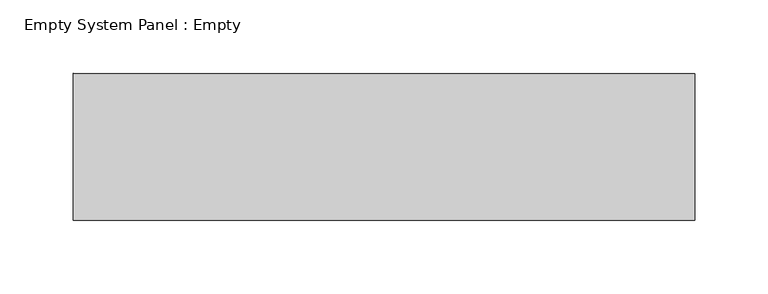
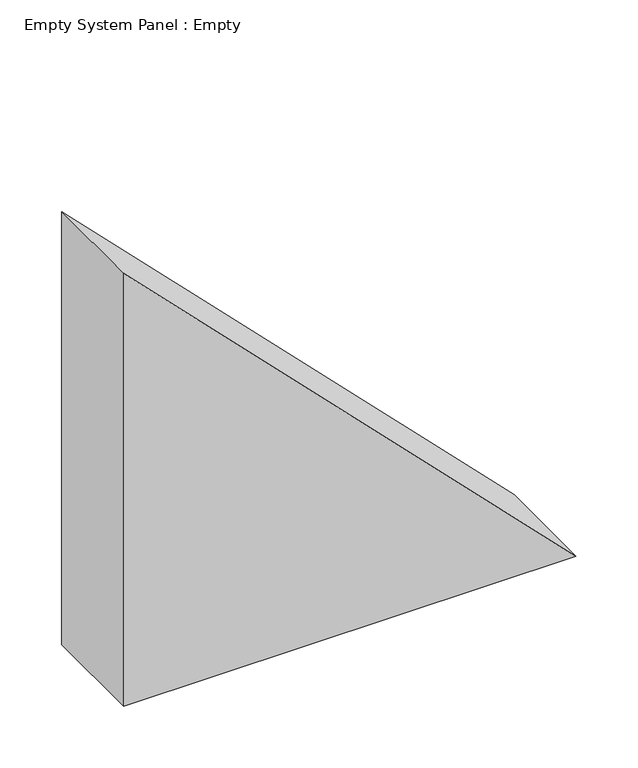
"""IFC4 building model written with IfcOpenShell, lengths in millimetres: plate geometry, Empty System Panel : Empty."""

import ifcopenshell
import ifcopenshell.guid

model = None  # the IFC model being written
_history = None  # IfcOwnerHistory: only IFC2X3 demands one
_inside = {}  # id of a spatial element -> (the spatial element, [elements in it])
_under = {}  # id of a project, library or spatial element -> (it, [spatial elements below it])
_declared = {}  # id of a project -> (the project, [libraries it declares])
_typed = {}  # id of a type object -> (the type object, [elements of that type])
_made_of = {}  # id of a material, layer set ... -> (it, [elements and type objects made of it])


def new_model(schema):
    """Start an empty IFC model of exactly this schema.

    Asked for "IFC4X3", IfcOpenShell would pick the latest addendum, in which some entities
    have other attributes; the version numbers below select the first issue.
    IFC2X3 requires an IfcOwnerHistory on every rooted entity: one is made here for all.
    """
    global model, _history
    if schema == "IFC4X3":
        model = ifcopenshell.file(schema_version=(4, 3, 0, 0))
    else:
        model = ifcopenshell.file(schema=schema)
    _inside.clear()
    _under.clear()
    _declared.clear()
    _typed.clear()
    _made_of.clear()
    _history = None
    if model.schema == "IFC2X3":
        org = make("IfcOrganization", Name="unknown")
        user = make(
            "IfcPersonAndOrganization",
            ThePerson=make("IfcPerson", FamilyName="unknown"),
            TheOrganization=org,
        )
        app = make(
            "IfcApplication",
            ApplicationDeveloper=org,
            Version="unknown",
            ApplicationFullName="unknown",
            ApplicationIdentifier="unknown",
        )
        _history = make(
            "IfcOwnerHistory",
            OwningUser=user,
            OwningApplication=app,
            ChangeAction="ADDED",
            CreationDate=0,
        )
    return model


def make(cls, **values):
    """One entity of the class cls with the attributes given. An attribute that is None is left unset."""
    return model.create_entity(
        cls, **{name: value for name, value in values.items() if value is not None}
    )


def rooted(cls, **values):
    """An entity with a GlobalId (a new one), such as an element, a storey or a relation."""
    return make(cls, GlobalId=ifcopenshell.guid.new(), OwnerHistory=_history, **values)


def si_unit(unit_type, name, prefix=None):
    """IfcSIUnit, for example si_unit("LENGTHUNIT", "METRE", prefix="MILLI")."""
    return make("IfcSIUnit", UnitType=unit_type, Prefix=prefix, Name=name)


def assignment(units):
    """IfcUnitAssignment: the units of a project."""
    return None if units is None else make("IfcUnitAssignment", Units=units)


def point(xyz):
    """IfcCartesianPoint."""
    return None if xyz is None else make("IfcCartesianPoint", Coordinates=xyz)


def direction(xyz):
    """IfcDirection."""
    return None if xyz is None else make("IfcDirection", DirectionRatios=xyz)


def frame(location, z_axis=None, x_axis=None):
    """IfcAxis2Placement3D, a coordinate frame: its origin and axes. An axis left out is left unset."""
    return make(
        "IfcAxis2Placement3D",
        Location=point(location),
        Axis=direction(z_axis),
        RefDirection=direction(x_axis),
    )


def origin():
    """The frame at (0, 0, 0) with its axes left unset."""
    return frame((0.0, 0.0, 0.0))


def place(relative_to, where):
    """IfcLocalPlacement: puts the frame where relative to a parent placement (None: the world)."""
    return make(
        "IfcLocalPlacement", PlacementRelTo=relative_to, RelativePlacement=where
    )


def context(
    kind, dimensions, precision=None, world=None, true_north=None, identifier=None
):
    """IfcGeometricRepresentationContext, for example the 3D "Model" context."""
    return make(
        "IfcGeometricRepresentationContext",
        ContextIdentifier=identifier,
        ContextType=kind,
        CoordinateSpaceDimension=dimensions,
        Precision=precision,
        WorldCoordinateSystem=world,
        TrueNorth=true_north,
    )


def project(units=None, contexts=None):
    """IfcProject with its units and contexts."""
    return rooted(
        "IfcProject",
        Name="project",
        RepresentationContexts=contexts,
        UnitsInContext=assignment(units),
    )


def spatial(cls, under=None, at=None, **own):
    """A site, building, storey or space (cls), placed at a placement, below another one or the project."""
    s = rooted(cls, ObjectPlacement=at, **own)
    if under is not None:
        _under.setdefault(under.id(), (under, []))[1].append(s)
    return s


def polyline(points):
    """IfcPolyline through the points."""
    return make("IfcPolyline", Points=[point(p) for p in points])


def outline(outer, holes=None, kind="AREA"):
    """IfcArbitraryClosedProfileDef: a profile drawn as a closed curve; with holes, ...WithVoids."""
    if holes is None:
        return make("IfcArbitraryClosedProfileDef", ProfileType=kind, OuterCurve=outer)
    return make(
        "IfcArbitraryProfileDefWithVoids",
        ProfileType=kind,
        OuterCurve=outer,
        InnerCurves=holes,
    )


def extrude(swept, where, along, depth):
    """IfcExtrudedAreaSolid: the profile swept, set in the frame where, extruded along a direction by depth."""
    return make(
        "IfcExtrudedAreaSolid",
        SweptArea=swept,
        Position=where,
        ExtrudedDirection=direction(along),
        Depth=depth,
    )


def shape(context_of_items, identifier, shape_type, items):
    """IfcShapeRepresentation: the items that make up one representation, for example the "Body"."""
    return make(
        "IfcShapeRepresentation",
        ContextOfItems=context_of_items,
        RepresentationIdentifier=identifier,
        RepresentationType=shape_type,
        Items=items,
    )


def source(mapping_origin, context_of_items, identifier, shape_type, items):
    """IfcRepresentationMap: a shape defined once, which mapped items show again and again."""
    return make(
        "IfcRepresentationMap",
        MappingOrigin=mapping_origin,
        MappedRepresentation=shape(context_of_items, identifier, shape_type, items),
    )


def transform(
    local_origin,
    x_axis=None,
    y_axis=None,
    z_axis=None,
    scale=None,
    scale2=None,
    scale3=None,
    uniform=True,
):
    """IfcCartesianTransformationOperator3D, or its non-uniform kind. x_axis, y_axis, z_axis: its Axis1, 2, 3."""
    if uniform:
        return make(
            "IfcCartesianTransformationOperator3D",
            Axis1=direction(x_axis),
            Axis2=direction(y_axis),
            LocalOrigin=point(local_origin),
            Scale=scale,
            Axis3=direction(z_axis),
        )
    return make(
        "IfcCartesianTransformationOperator3DnonUniform",
        Axis1=direction(x_axis),
        Axis2=direction(y_axis),
        LocalOrigin=point(local_origin),
        Scale=scale,
        Axis3=direction(z_axis),
        Scale2=scale2,
        Scale3=scale3,
    )


def mapped(mapping_source, mapping_target):
    """IfcMappedItem: shows the shape of a source again, moved by a transform."""
    return make(
        "IfcMappedItem", MappingSource=mapping_source, MappingTarget=mapping_target
    )


def made_of(thing, what):
    """Note that an element or type object is made of a material, layer set ...; save() writes the relation."""
    if what is not None:
        _made_of.setdefault(what.id(), (what, []))[1].append(thing)
    return thing


def element(
    cls,
    number,
    at=None,
    inside=None,
    cuts=None,
    type_object=None,
    material=None,
    context=None,
    identifier="Body",
    shape_type=None,
    held_by="IfcProductDefinitionShape",
    body=None,
    shapes=None,
    **own,
):
    """One element of the class cls, such as IfcWall. Its Tag is "e" and its number.

    at: its placement. inside: the storey or other place that contains it. cuts: it is an
    opening in that element (IfcRelVoidsElement). A single representation is given by context,
    identifier, shape_type and body (its items); several are given by shapes. held_by: the class
    of the entity that holds the representations. save() writes the other relations.
    """
    e = rooted(cls, Tag="e%d" % number, ObjectPlacement=at, **own)
    if body is not None:
        shapes = [shape(context, identifier, shape_type, body)]
    if shapes is not None:
        e.Representation = make(held_by, Representations=shapes)
    if inside is not None:
        _inside.setdefault(inside.id(), (inside, []))[1].append(e)
    if cuts is not None:
        rooted(
            "IfcRelVoidsElement", RelatingBuildingElement=cuts, RelatedOpeningElement=e
        )
    if type_object is not None:
        _typed.setdefault(type_object.id(), (type_object, []))[1].append(e)
    return made_of(e, material)


def aggregate(whole, parts):
    """IfcRelAggregates: a whole, such as a stair, and the parts it consists of."""
    return rooted("IfcRelAggregates", RelatingObject=whole, RelatedObjects=parts)


def save(model, path):
    """Write the relations noted so far, then the file.

    IfcRelAggregates (storeys below a building ...), IfcRelContainedInSpatialStructure (elements
    in a storey), IfcRelDefinesByType, IfcRelAssociatesMaterial and IfcRelDeclares: one each for
    every whole, place, type object, material and project.
    """
    for whole, parts in _under.values():
        aggregate(whole, parts)
    for where, things in _inside.values():
        rooted(
            "IfcRelContainedInSpatialStructure",
            RelatedElements=things,
            RelatingStructure=where,
        )
    for kind, things in _typed.values():
        rooted("IfcRelDefinesByType", RelatedObjects=things, RelatingType=kind)
    for what, things in _made_of.values():
        rooted("IfcRelAssociatesMaterial", RelatedObjects=things, RelatingMaterial=what)
    for by, libraries in _declared.values():
        rooted("IfcRelDeclares", RelatingContext=by, RelatedDefinitions=libraries)
    model.write(path)


def empty_system_panel_empty_322303ac(model_context):
    return source(origin(), model_context, "Body", "SweptSolid", [
        extrude(outline(polyline([(0.0, -211.4764276), (0.0, 211.4764276), (427.6846068, -211.4764276), (0.0, -211.4764276)])), frame((0.0, -50.0, 0.0), z_axis=(0.0, 1.0, 0.0), x_axis=(0.0, 0.0, 1.0)), (0.0, 0.0, 1.0), 100.0),
    ])


if __name__ == "__main__":
    model = new_model("IFC4")
    model_context = context("Model", 3, world=origin())
    ifc_project = project(units=[si_unit("LENGTHUNIT", "METRE", prefix="MILLI")], contexts=[model_context])
    site = spatial("IfcSite", under=ifc_project)
    building = spatial("IfcBuilding", under=site)
    placement = place(None, origin())
    empty_system_panel_empty_shape = empty_system_panel_empty_322303ac(model_context)
    element("IfcPlate", 1, ObjectType="Empty System Panel : Empty", at=placement, inside=building, context=model_context, shape_type="MappedRepresentation", body=[
        mapped(empty_system_panel_empty_shape, transform((0.0, 0.0, 0.0), x_axis=(1.0, 0.0, 0.0), y_axis=(0.0, 1.0, 0.0), z_axis=(0.0, 0.0, 1.0))),
    ])
    save(model, "model.ifc")
